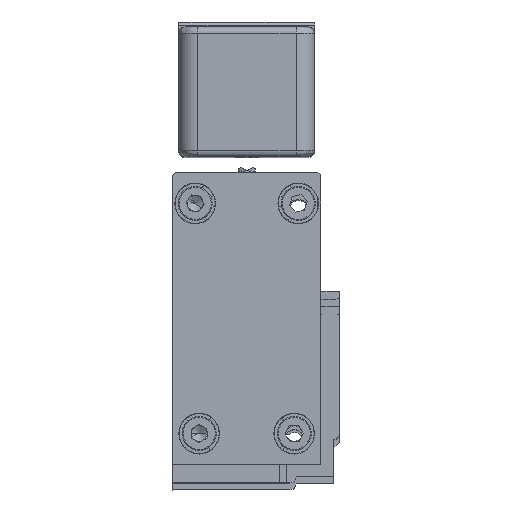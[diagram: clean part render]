
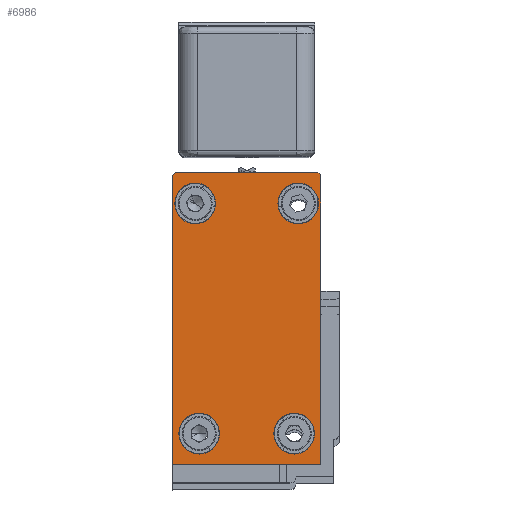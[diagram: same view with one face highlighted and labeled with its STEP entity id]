
A CAD part, top view. The second image highlights one B-rep face of the part: STEP entity #6986.
In plain terms, the highlighted planar face has unit normal (0, 0, 1).
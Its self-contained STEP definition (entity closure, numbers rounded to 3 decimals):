
#19 = AXIS2_PLACEMENT_3D ( 'NONE', #26787, #10877, #29483 ) ;
#445 = EDGE_LOOP ( 'NONE', ( #23271, #18145 ) ) ;
#512 = VERTEX_POINT ( 'NONE', #3860 ) ;
#888 = CARTESIAN_POINT ( 'NONE',  ( -17.017, -15.887, 3185. ) ) ;
#1031 = ORIENTED_EDGE ( 'NONE', *, *, #30236, .T. ) ;
#1416 = CIRCLE ( 'NONE', #14113, 3.302 ) ;
#1565 = CARTESIAN_POINT ( 'NONE',  ( -10.412, -15.887, 3185. ) ) ;
#1807 = EDGE_CURVE ( 'NONE', #26637, #31433, #11112, .T. ) ;
#1978 = DIRECTION ( 'NONE',  ( 0., 0., -1. ) ) ;
#2016 = DIRECTION ( 'NONE',  ( 0., 1., 0. ) ) ;
#2268 = CARTESIAN_POINT ( 'NONE',  ( -18.014, -20.888, 3185. ) ) ;
#2401 = DIRECTION ( 'NONE',  ( 0., 1., 0. ) ) ;
#2584 = ORIENTED_EDGE ( 'NONE', *, *, #6806, .T. ) ;
#2615 = LINE ( 'NONE', #29451, #9645 ) ;
#2907 = AXIS2_PLACEMENT_3D ( 'NONE', #30038, #14131, #32710 ) ;
#2954 = CARTESIAN_POINT ( 'NONE',  ( 5.485, 26.371, 3185. ) ) ;
#3164 = AXIS2_PLACEMENT_3D ( 'NONE', #29208, #13287, #31860 ) ;
#3445 = EDGE_CURVE ( 'NONE', #20301, #26959, #24676, .T. ) ;
#3567 = AXIS2_PLACEMENT_3D ( 'NONE', #28429, #12521, #31088 ) ;
#3638 = FACE_BOUND ( 'NONE', #8993, .T. ) ;
#3654 = EDGE_CURVE ( 'NONE', #16954, #28257, #1416, .T. ) ;
#3807 = CARTESIAN_POINT ( 'NONE',  ( 2.335, 21.401, 3185. ) ) ;
#3860 = CARTESIAN_POINT ( 'NONE',  ( 5.984, 7.11, 3185. ) ) ;
#3965 = CARTESIAN_POINT ( 'NONE',  ( -1.626, -15.887, 3185. ) ) ;
#4120 = CIRCLE ( 'NONE', #3164, 3.302 ) ;
#4231 = EDGE_CURVE ( 'NONE', #22384, #5673, #13809, .T. ) ;
#4377 = VECTOR ( 'NONE', #19594, 1000. ) ;
#4638 = ORIENTED_EDGE ( 'NONE', *, *, #4231, .T. ) ;
#4723 = AXIS2_PLACEMENT_3D ( 'NONE', #17856, #1978, #20529 ) ;
#5088 = VERTEX_POINT ( 'NONE', #13195 ) ;
#5240 = LINE ( 'NONE', #6307, #4377 ) ;
#5267 = AXIS2_PLACEMENT_3D ( 'NONE', #13904, #32504, #16557 ) ;
#5433 = CARTESIAN_POINT ( 'NONE',  ( 5.984, -20.888, 3185. ) ) ;
#5673 = VERTEX_POINT ( 'NONE', #31016 ) ;
#6047 = ORIENTED_EDGE ( 'NONE', *, *, #17180, .T. ) ;
#6307 = CARTESIAN_POINT ( 'NONE',  ( 5.984, -20.888, 3185. ) ) ;
#6488 = DIRECTION ( 'NONE',  ( -1., 0., 0. ) ) ;
#6770 = VECTOR ( 'NONE', #25565, 1000. ) ;
#6806 = EDGE_CURVE ( 'NONE', #28257, #16954, #8237, .T. ) ;
#6986 = ADVANCED_FACE ( 'NONE', ( #3638, #17693, #31013, #10667, #23969 ), #24576, .T. ) ;
#7055 = ORIENTED_EDGE ( 'NONE', *, *, #20107, .T. ) ;
#7062 = EDGE_CURVE ( 'NONE', #31433, #26637, #11072, .T. ) ;
#7597 = EDGE_CURVE ( 'NONE', #14694, #5673, #11661, .T. ) ;
#8237 = CIRCLE ( 'NONE', #19, 3.302 ) ;
#8500 = AXIS2_PLACEMENT_3D ( 'NONE', #28106, #12184, #30761 ) ;
#8539 = DIRECTION ( 'NONE',  ( 0., 0., -1. ) ) ;
#8993 = EDGE_LOOP ( 'NONE', ( #2584, #19238 ) ) ;
#9199 = AXIS2_PLACEMENT_3D ( 'NONE', #33831, #17890, #2016 ) ;
#9513 = EDGE_LOOP ( 'NONE', ( #6047, #18960 ) ) ;
#9645 = VECTOR ( 'NONE', #10849, 1000. ) ;
#10254 = CIRCLE ( 'NONE', #4723, 3.302 ) ;
#10567 = EDGE_LOOP ( 'NONE', ( #1031, #26259 ) ) ;
#10630 = CARTESIAN_POINT ( 'NONE',  ( -18.014, 25.871, 3185. ) ) ;
#10667 = FACE_BOUND ( 'NONE', #9513, .T. ) ;
#10849 = DIRECTION ( 'NONE',  ( 0., -1., 0. ) ) ;
#10877 = DIRECTION ( 'NONE',  ( 0., 0., -1. ) ) ;
#11072 = CIRCLE ( 'NONE', #11773, 3.302 ) ;
#11112 = CIRCLE ( 'NONE', #3567, 3.302 ) ;
#11661 = CIRCLE ( 'NONE', #24679, 0.5 ) ;
#11773 = AXIS2_PLACEMENT_3D ( 'NONE', #3807, #22367, #6488 ) ;
#12184 = DIRECTION ( 'NONE',  ( 0., 0., -1. ) ) ;
#12506 = ORIENTED_EDGE ( 'NONE', *, *, #26283, .T. ) ;
#12521 = DIRECTION ( 'NONE',  ( 0., 0., -1. ) ) ;
#12948 = CARTESIAN_POINT ( 'NONE',  ( 5.984, 7.11, 3185. ) ) ;
#13129 = CARTESIAN_POINT ( 'NONE',  ( 5.485, 26.371, 3185. ) ) ;
#13130 = CARTESIAN_POINT ( 'NONE',  ( -0.967, 21.401, 3185. ) ) ;
#13195 = CARTESIAN_POINT ( 'NONE',  ( 5.984, 25.871, 3185. ) ) ;
#13287 = DIRECTION ( 'NONE',  ( 0., 0., -1. ) ) ;
#13638 = DIRECTION ( 'NONE',  ( 0., 0., -1. ) ) ;
#13809 = LINE ( 'NONE', #13129, #6770 ) ;
#13904 = CARTESIAN_POINT ( 'NONE',  ( 1.676, -15.887, 3185. ) ) ;
#14113 = AXIS2_PLACEMENT_3D ( 'NONE', #24415, #8539, #27102 ) ;
#14131 = DIRECTION ( 'NONE',  ( 0., 0., 1. ) ) ;
#14409 = CARTESIAN_POINT ( 'NONE',  ( -11.063, 21.401, 3185. ) ) ;
#14694 = VERTEX_POINT ( 'NONE', #10630 ) ;
#15101 = CARTESIAN_POINT ( 'NONE',  ( 5.637, 21.401, 3185. ) ) ;
#15318 = VERTEX_POINT ( 'NONE', #15423 ) ;
#15423 = CARTESIAN_POINT ( 'NONE',  ( 4.978, -15.887, 3185. ) ) ;
#16033 = EDGE_LOOP ( 'NONE', ( #7055, #26100, #21391, #4638, #22773, #12506, #25539 ) ) ;
#16557 = DIRECTION ( 'NONE',  ( -1., 0., 0. ) ) ;
#16640 = EDGE_CURVE ( 'NONE', #15318, #24547, #4120, .T. ) ;
#16954 = VERTEX_POINT ( 'NONE', #14409 ) ;
#17180 = EDGE_CURVE ( 'NONE', #29196, #26533, #10254, .T. ) ;
#17584 = VECTOR ( 'NONE', #20847, 1000. ) ;
#17693 = FACE_BOUND ( 'NONE', #445, .T. ) ;
#17850 = LINE ( 'NONE', #12948, #24924 ) ;
#17856 = CARTESIAN_POINT ( 'NONE',  ( -13.714, -15.887, 3185. ) ) ;
#17890 = DIRECTION ( 'NONE',  ( 0., 0., 1. ) ) ;
#18145 = ORIENTED_EDGE ( 'NONE', *, *, #1807, .T. ) ;
#18180 = EDGE_CURVE ( 'NONE', #5088, #22384, #24286, .T. ) ;
#18960 = ORIENTED_EDGE ( 'NONE', *, *, #27329, .T. ) ;
#19238 = ORIENTED_EDGE ( 'NONE', *, *, #3654, .T. ) ;
#19594 = DIRECTION ( 'NONE',  ( 0., 1., 0. ) ) ;
#20107 = EDGE_CURVE ( 'NONE', #26959, #512, #5240, .T. ) ;
#20301 = VERTEX_POINT ( 'NONE', #30846 ) ;
#20529 = DIRECTION ( 'NONE',  ( -1., 0., 0. ) ) ;
#20847 = DIRECTION ( 'NONE',  ( 1., 0., 0. ) ) ;
#21391 = ORIENTED_EDGE ( 'NONE', *, *, #18180, .T. ) ;
#22367 = DIRECTION ( 'NONE',  ( 0., 0., -1. ) ) ;
#22384 = VERTEX_POINT ( 'NONE', #2954 ) ;
#22773 = ORIENTED_EDGE ( 'NONE', *, *, #7597, .F. ) ;
#23271 = ORIENTED_EDGE ( 'NONE', *, *, #7062, .T. ) ;
#23866 = CARTESIAN_POINT ( 'NONE',  ( -17.667, 21.401, 3185. ) ) ;
#23969 = FACE_OUTER_BOUND ( 'NONE', #16033, .T. ) ;
#24286 = CIRCLE ( 'NONE', #9199, 0.5 ) ;
#24415 = CARTESIAN_POINT ( 'NONE',  ( -14.365, 21.401, 3185. ) ) ;
#24547 = VERTEX_POINT ( 'NONE', #3965 ) ;
#24576 = PLANE ( 'NONE',  #2907 ) ;
#24676 = LINE ( 'NONE', #2268, #17584 ) ;
#24679 = AXIS2_PLACEMENT_3D ( 'NONE', #29557, #13638, #32218 ) ;
#24924 = VECTOR ( 'NONE', #2401, 1000. ) ;
#25132 = CIRCLE ( 'NONE', #5267, 3.302 ) ;
#25539 = ORIENTED_EDGE ( 'NONE', *, *, #3445, .T. ) ;
#25565 = DIRECTION ( 'NONE',  ( -1., 0., 0. ) ) ;
#26100 = ORIENTED_EDGE ( 'NONE', *, *, #28167, .T. ) ;
#26259 = ORIENTED_EDGE ( 'NONE', *, *, #16640, .T. ) ;
#26283 = EDGE_CURVE ( 'NONE', #14694, #20301, #2615, .T. ) ;
#26533 = VERTEX_POINT ( 'NONE', #1565 ) ;
#26637 = VERTEX_POINT ( 'NONE', #15101 ) ;
#26787 = CARTESIAN_POINT ( 'NONE',  ( -14.365, 21.401, 3185. ) ) ;
#26959 = VERTEX_POINT ( 'NONE', #5433 ) ;
#27102 = DIRECTION ( 'NONE',  ( -1., 0., 0. ) ) ;
#27329 = EDGE_CURVE ( 'NONE', #26533, #29196, #30727, .T. ) ;
#28106 = CARTESIAN_POINT ( 'NONE',  ( -13.714, -15.887, 3185. ) ) ;
#28167 = EDGE_CURVE ( 'NONE', #512, #5088, #17850, .T. ) ;
#28257 = VERTEX_POINT ( 'NONE', #23866 ) ;
#28429 = CARTESIAN_POINT ( 'NONE',  ( 2.335, 21.401, 3185. ) ) ;
#29196 = VERTEX_POINT ( 'NONE', #888 ) ;
#29208 = CARTESIAN_POINT ( 'NONE',  ( 1.676, -15.887, 3185. ) ) ;
#29451 = CARTESIAN_POINT ( 'NONE',  ( -18.014, 25.871, 3185. ) ) ;
#29483 = DIRECTION ( 'NONE',  ( -1., 0., 0. ) ) ;
#29557 = CARTESIAN_POINT ( 'NONE',  ( -17.514, 25.871, 3185. ) ) ;
#30038 = CARTESIAN_POINT ( 'NONE',  ( -18.014, -20.888, 3185. ) ) ;
#30236 = EDGE_CURVE ( 'NONE', #24547, #15318, #25132, .T. ) ;
#30727 = CIRCLE ( 'NONE', #8500, 3.302 ) ;
#30761 = DIRECTION ( 'NONE',  ( -1., 0., 0. ) ) ;
#30846 = CARTESIAN_POINT ( 'NONE',  ( -18.014, -20.888, 3185. ) ) ;
#31013 = FACE_BOUND ( 'NONE', #10567, .T. ) ;
#31016 = CARTESIAN_POINT ( 'NONE',  ( -17.514, 26.371, 3185. ) ) ;
#31088 = DIRECTION ( 'NONE',  ( -1., 0., 0. ) ) ;
#31433 = VERTEX_POINT ( 'NONE', #13130 ) ;
#31860 = DIRECTION ( 'NONE',  ( -1., 0., 0. ) ) ;
#32218 = DIRECTION ( 'NONE',  ( 0., 1., 0. ) ) ;
#32504 = DIRECTION ( 'NONE',  ( 0., 0., -1. ) ) ;
#32710 = DIRECTION ( 'NONE',  ( -1., 0., 0. ) ) ;
#33831 = CARTESIAN_POINT ( 'NONE',  ( 5.485, 25.871, 3185. ) ) ;
